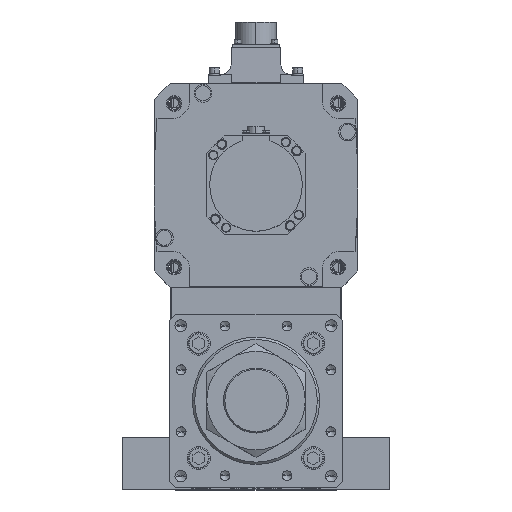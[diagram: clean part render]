
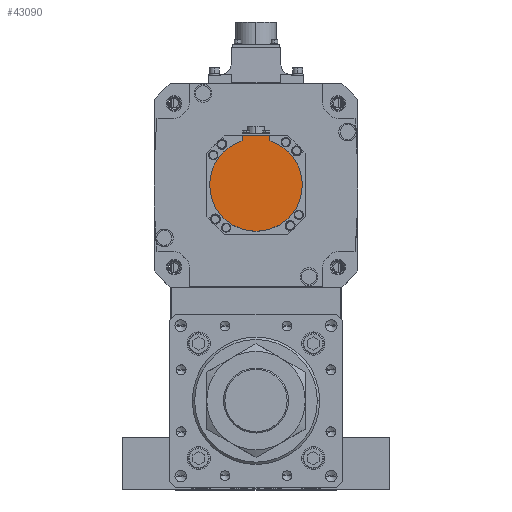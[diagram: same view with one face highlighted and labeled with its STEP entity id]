
A CAD part, top view. The second image highlights one B-rep face of the part: STEP entity #43090.
In plain terms, the highlighted planar face has unit normal (0, 0, 1) as drawn and (0, 0, -1) by its records, which use the part's own axes.
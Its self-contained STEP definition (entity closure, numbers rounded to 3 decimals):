
#531 = CARTESIAN_POINT ( 'NONE',  ( -12., -40.329, -162.5 ) ) ;
#1017 = EDGE_CURVE ( 'NONE', #20831, #51639, #28652, .T. ) ;
#1083 = AXIS2_PLACEMENT_3D ( 'NONE', #2887, #44425, #39887 ) ;
#2624 = CARTESIAN_POINT ( 'NONE',  ( 40., 0., -162.5 ) ) ;
#2691 = FACE_OUTER_BOUND ( 'NONE', #37182, .T. ) ;
#2887 = CARTESIAN_POINT ( 'NONE',  ( 0., 0., -162.5 ) ) ;
#2929 = CARTESIAN_POINT ( 'NONE',  ( 12., -38.158, -162.5 ) ) ;
#3867 = VECTOR ( 'NONE', #8359, 1000. ) ;
#4908 = DIRECTION ( 'NONE',  ( 0., 0., 1. ) ) ;
#5332 = CIRCLE ( 'NONE', #53541, 40. ) ;
#7184 = CARTESIAN_POINT ( 'NONE',  ( 0., -1.249, -162.5 ) ) ;
#8359 = DIRECTION ( 'NONE',  ( 0., 1., 0. ) ) ;
#13091 = AXIS2_PLACEMENT_3D ( 'NONE', #7184, #36585, #49275 ) ;
#13517 = EDGE_CURVE ( 'NONE', #20831, #31263, #38333, .T. ) ;
#14261 = ORIENTED_EDGE ( 'NONE', *, *, #42344, .F. ) ;
#17486 = ORIENTED_EDGE ( 'NONE', *, *, #35860, .F. ) ;
#17572 = VERTEX_POINT ( 'NONE', #30863 ) ;
#20747 = VECTOR ( 'NONE', #46082, 1000. ) ;
#20831 = VERTEX_POINT ( 'NONE', #34938 ) ;
#21882 = VERTEX_POINT ( 'NONE', #2624 ) ;
#22571 = CIRCLE ( 'NONE', #38624, 40. ) ;
#22924 = EDGE_CURVE ( 'NONE', #51639, #17572, #33267, .T. ) ;
#24359 = DIRECTION ( 'NONE',  ( 0., 0., 1. ) ) ;
#24572 = CARTESIAN_POINT ( 'NONE',  ( -40., 0., -162.5 ) ) ;
#26093 = CARTESIAN_POINT ( 'NONE',  ( 0., -42.5, -162.5 ) ) ;
#28543 = PLANE ( 'NONE',  #13091 ) ;
#28652 = LINE ( 'NONE', #26093, #20747 ) ;
#28922 = ORIENTED_EDGE ( 'NONE', *, *, #13517, .F. ) ;
#29217 = DIRECTION ( 'NONE',  ( 1., 0., 0. ) ) ;
#30863 = CARTESIAN_POINT ( 'NONE',  ( -12., -38.158, -162.5 ) ) ;
#31263 = VERTEX_POINT ( 'NONE', #2929 ) ;
#31652 = CARTESIAN_POINT ( 'NONE',  ( -12., -42.5, -162.5 ) ) ;
#32923 = DIRECTION ( 'NONE',  ( 1., 0., 0. ) ) ;
#33267 = LINE ( 'NONE', #531, #3867 ) ;
#33838 = ORIENTED_EDGE ( 'NONE', *, *, #1017, .T. ) ;
#34938 = CARTESIAN_POINT ( 'NONE',  ( 12., -42.5, -162.5 ) ) ;
#35410 = VERTEX_POINT ( 'NONE', #24572 ) ;
#35860 = EDGE_CURVE ( 'NONE', #21882, #35410, #22571, .T. ) ;
#36585 = DIRECTION ( 'NONE',  ( 0., 0., 1. ) ) ;
#36683 = CIRCLE ( 'NONE', #1083, 40. ) ;
#37182 = EDGE_LOOP ( 'NONE', ( #49017, #43879, #17486, #14261, #28922, #33838 ) ) ;
#37593 = CARTESIAN_POINT ( 'NONE',  ( 0., 0., -162.5 ) ) ;
#38333 = LINE ( 'NONE', #38743, #51989 ) ;
#38624 = AXIS2_PLACEMENT_3D ( 'NONE', #53634, #24359, #32923 ) ;
#38743 = CARTESIAN_POINT ( 'NONE',  ( 12., -1.249, -162.5 ) ) ;
#39887 = DIRECTION ( 'NONE',  ( 1., 0., 0. ) ) ;
#42344 = EDGE_CURVE ( 'NONE', #31263, #21882, #5332, .T. ) ;
#42853 = DIRECTION ( 'NONE',  ( 0., 1., 0. ) ) ;
#43090 = ADVANCED_FACE ( 'NONE', ( #2691 ), #28543, .F. ) ;
#43879 = ORIENTED_EDGE ( 'NONE', *, *, #49838, .F. ) ;
#44425 = DIRECTION ( 'NONE',  ( 0., 0., 1. ) ) ;
#46082 = DIRECTION ( 'NONE',  ( -1., 0., 0. ) ) ;
#49017 = ORIENTED_EDGE ( 'NONE', *, *, #22924, .T. ) ;
#49275 = DIRECTION ( 'NONE',  ( 1., 0., 0. ) ) ;
#49838 = EDGE_CURVE ( 'NONE', #35410, #17572, #36683, .T. ) ;
#51639 = VERTEX_POINT ( 'NONE', #31652 ) ;
#51989 = VECTOR ( 'NONE', #42853, 1000. ) ;
#53541 = AXIS2_PLACEMENT_3D ( 'NONE', #37593, #4908, #29217 ) ;
#53634 = CARTESIAN_POINT ( 'NONE',  ( 0., 0., -162.5 ) ) ;
